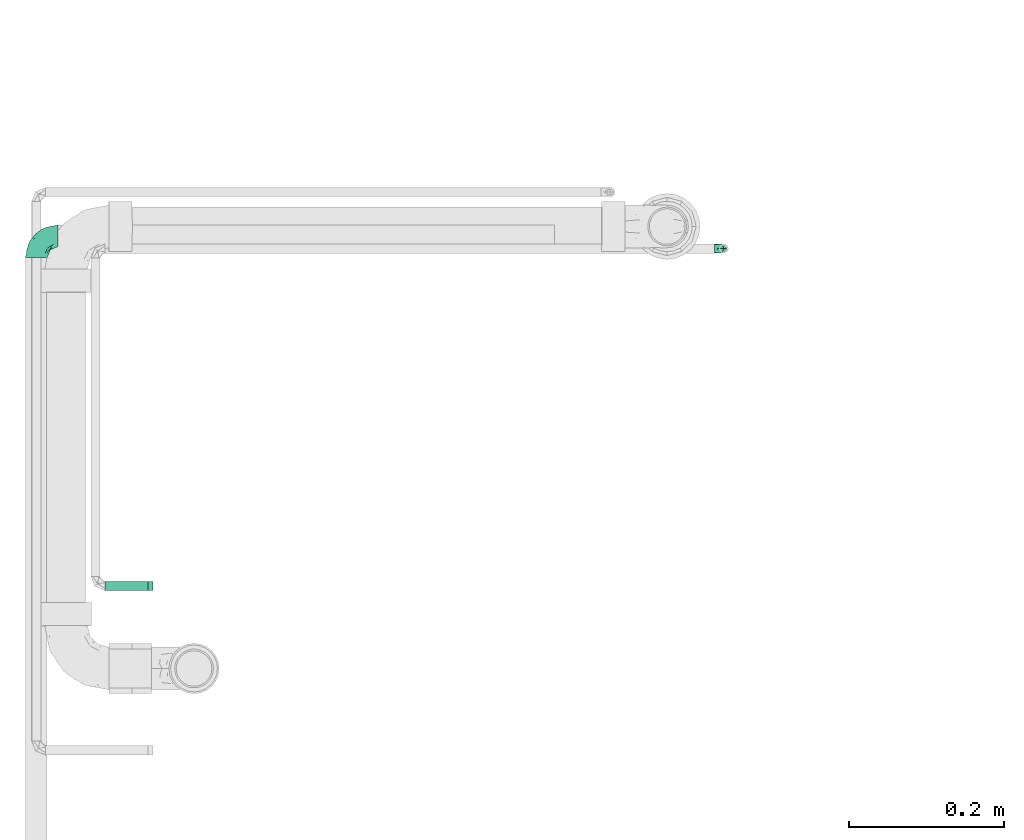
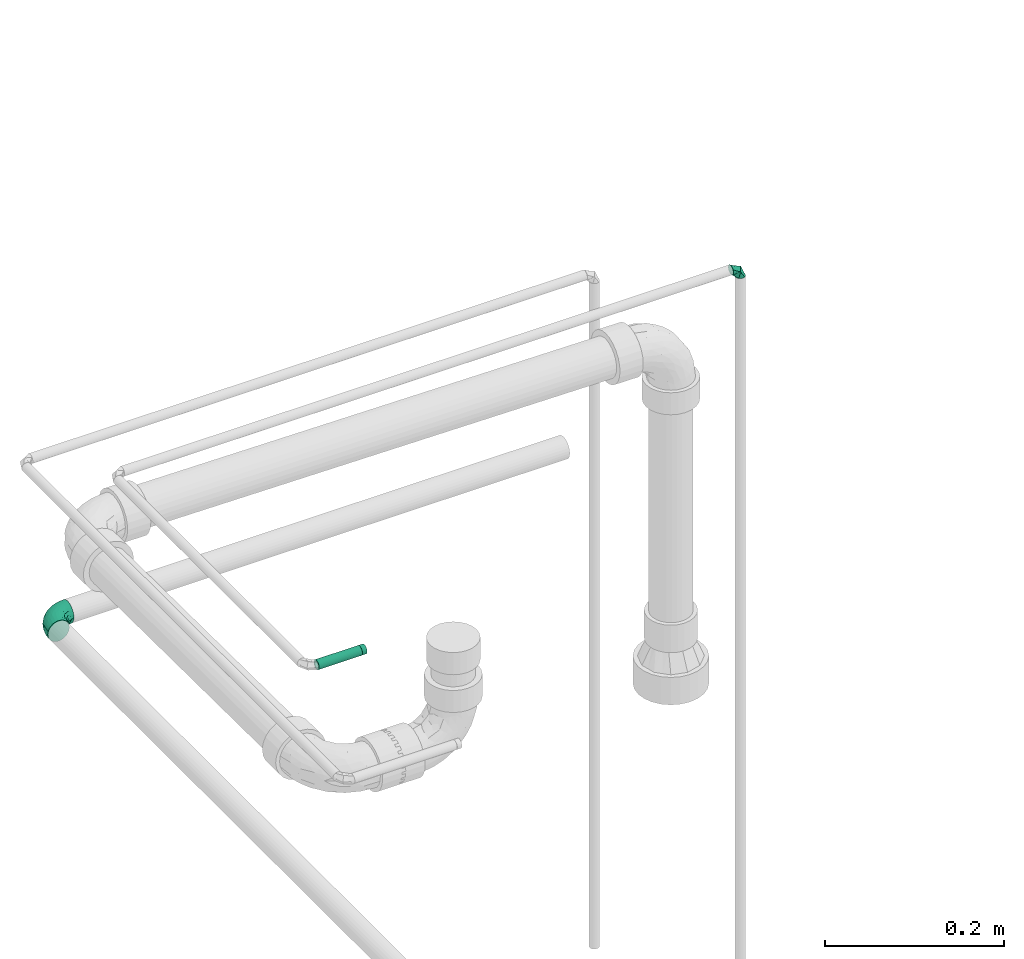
# One storey, part 67 of 108: 3 flow fittings, 1 flow segment.
"""IFC2X3 building model written with IfcOpenShell, lengths in millimetres."""

from ifc_helpers import new_model, entity, si_unit, converted_unit, derived_unit, direction, frame, origin_with_axes, origin_2d_with_axis, place, context, subcontext, project, spatial, hollow_circle, extrude, open_shell, surface_model, source, transform, mapped, type_object, element, save


model = new_model("IFC2X3")

# Units and contexts
model_context = context("Model", 3, precision=0.01, world=frame((0.0, 4.29681676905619e-09, 0.0)), true_north=direction((4.01073788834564e-13, 1.0)))
plan_context = context("Plan", 3, precision=0.01, world=frame((0.0, 4.29681676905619e-09, 0.0)), true_north=direction((4.01073788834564e-13, 1.0)))
body_context = subcontext(model_context, "Body", "Model", "MODEL_VIEW")
ifc_project = project(units=[converted_unit("PLANEANGLEUNIT", "DEGREE", entity("IfcPositiveLengthMeasure", 0.0174532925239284), si_unit("PLANEANGLEUNIT", "RADIAN"), dimensions=[0, 0, 0, 0, 0, 0, 0]), si_unit("AREAUNIT", "SQUARE_METRE"), si_unit("LENGTHUNIT", "METRE", prefix="MILLI"), si_unit("MASSUNIT", "GRAM", prefix="KILO"), si_unit("POWERUNIT", "WATT"), si_unit("PRESSUREUNIT", "PASCAL", prefix="KILO"), si_unit("FORCEUNIT", "NEWTON", prefix="KILO"), si_unit("ELECTRICVOLTAGEUNIT", "VOLT"), si_unit("ELECTRICCURRENTUNIT", "AMPERE"), si_unit("THERMODYNAMICTEMPERATUREUNIT", "DEGREE_CELSIUS"), si_unit("TIMEUNIT", "SECOND"), si_unit("VOLUMEUNIT", "CUBIC_METRE"), derived_unit("LINEARVELOCITYUNIT", [(si_unit("LENGTHUNIT", "METRE"), 1), (si_unit("TIMEUNIT", "SECOND"), -1)]), derived_unit("VOLUMETRICFLOWRATEUNIT", [(si_unit("VOLUMEUNIT", "CUBIC_METRE"), 1), (si_unit("TIMEUNIT", "SECOND"), -1)]), derived_unit("THERMALTRANSMITTANCEUNIT", [(si_unit("POWERUNIT", "WATT"), 1), (si_unit("THERMODYNAMICTEMPERATUREUNIT", "KELVIN"), -1), (si_unit("AREAUNIT", "SQUARE_METRE"), -1)]), derived_unit("SOUNDPRESSUREUNIT", [(si_unit("PRESSUREUNIT", "PASCAL"), 1)])], contexts=[model_context, plan_context])

# Site, building, storey
site_placement = place(None, frame((0.0, -4.29681676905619e-09, 0.0), z_axis=(0.0, 0.0, 1.0), x_axis=(1.0, 0.0, 0.0)))
site = spatial("IfcSite", under=ifc_project, at=site_placement, CompositionType="ELEMENT")
building_placement = place(site_placement, frame((0.0, 4.29681676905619e-09, 0.0), z_axis=(0.0, 0.0, 1.0), x_axis=(1.0, 0.0, 0.0)))
building = spatial("IfcBuilding", under=site, at=building_placement, Name="mc-building", CompositionType="ELEMENT")
storey_placement = place(building_placement, frame((0.0, 0.0, 210200.0), z_axis=(0.0, 0.0, 1.0), x_axis=(1.0, 0.0, 0.0)))
storey = spatial("IfcBuildingStorey", under=building, at=storey_placement, Name="Nivå F - 0,7 m", CompositionType="ELEMENT", Elevation=210200.0)

# Flow fittings
pipe_fitting_type_1 = type_object("IfcPipeFittingType", Name="magi_pipe_elbow_short_001", PredefinedType="BEND")
shared_shape_1 = source(origin_with_axes(), body_context, "Body", "SurfaceModel", [
    surface_model("IfcShellBasedSurfaceModel", [(-12.0, 0.0, -6.0), (-12.0, -5.19615, -3.0), (-12.0, 1.55291, -5.79555), (-12.0, 5.79555, -1.55291), (-12.0, -5.79555, -1.55291), (-12.0, -6.0, 0.0), (-12.0, -1.55291, 5.79555), (-12.0, 0.0, 6.0), (-12.0, -3.0, 5.19615), (-12.0, 3.0, -5.19615), (-12.0, 5.19615, -3.0), (-12.0, 4.24264, -4.24264), (-12.0, -3.0, -5.19615), (-12.0, -4.24264, -4.24264), (-12.0, -1.55291, -5.79555), (-12.0, 6.0, 0.0), (-12.0, -4.24264, 4.24264), (-12.0, 5.79555, 1.55291), (-12.0, 5.19615, 3.0), (-12.0, 4.24264, 4.24264), (-12.0, 1.55291, 5.79555), (-12.0, 3.0, 5.19615), (-12.0, -5.79555, 1.55291), (-12.0, -5.19615, 3.0), (-1.55291, 12.0, -5.79555), (5.19615, 12.0, -3.0), (0.0, 12.0, -6.0), (-5.79555, 12.0, -1.55291), (-3.0, 12.0, -5.19615), (-4.24264, 12.0, -4.24264), (-5.19615, 12.0, -3.0), (-1.55291, 12.0, 5.79555), (1.55291, 12.0, -5.79555), (4.24264, 12.0, -4.24264), (3.0, 12.0, -5.19615), (6.0, 12.0, 0.0), (5.79555, 12.0, -1.55291), (4.24264, 12.0, 4.24264), (-5.19615, 12.0, 3.0), (-5.79555, 12.0, 1.55291), (-4.24264, 12.0, 4.24264), (-3.0, 12.0, 5.19615), (5.19615, 12.0, 3.0), (5.79555, 12.0, 1.55291), (3.0, 12.0, 5.19615), (0.0, 12.0, 6.0), (1.55291, 12.0, 5.79555), (-6.0, 12.0, 0.0), (-2.67965, 2.67964, 5.88263), (-6.5981, -3.76246, 0.0), (0.72792, -0.72792, 0.0), (3.76246, 6.5981, 0.0), (-7.75736, 7.75736, 0.0), (-2.67964, 2.67964, -5.88263)], [open_shell([[[0, 1, 2]], [[3, 2, 1]], [[4, 5, 1]], [[6, 7, 8]], [[9, 2, 3]], [[3, 10, 11]], [[9, 3, 11]], [[12, 13, 14]], [[1, 14, 13]], [[0, 14, 1]], [[1, 5, 3]], [[5, 15, 3]], [[16, 17, 5]], [[18, 17, 19]], [[20, 21, 19]], [[17, 20, 19]], [[20, 17, 8]], [[5, 22, 23]], [[5, 23, 16]], [[17, 16, 8]], [[20, 8, 7]], [[17, 15, 5]], [[24, 25, 26]], [[27, 24, 28]], [[29, 30, 27]], [[29, 27, 28]], [[31, 25, 24]], [[32, 33, 34]], [[33, 32, 25]], [[25, 35, 36]], [[25, 32, 26]], [[25, 37, 35]], [[38, 24, 27]], [[27, 39, 38]], [[24, 38, 31]], [[40, 41, 31]], [[40, 31, 38]], [[37, 25, 31]], [[35, 42, 43]], [[37, 42, 35]], [[44, 45, 46]], [[44, 37, 31]], [[45, 44, 31]], [[27, 47, 39]], [[6, 48, 7]], [[23, 22, 49]], [[16, 23, 49]], [[22, 5, 49]], [[50, 51, 48]], [[8, 49, 48]], [[20, 7, 48]], [[8, 48, 6]], [[42, 51, 43]], [[16, 49, 8]], [[18, 19, 38]], [[48, 19, 21]], [[17, 18, 52]], [[52, 15, 17]], [[52, 18, 38]], [[21, 20, 48]], [[49, 50, 48]], [[44, 46, 48]], [[51, 44, 48]], [[46, 45, 48]], [[35, 43, 51]], [[44, 51, 37]], [[37, 51, 42]], [[38, 39, 52]], [[47, 52, 39]], [[41, 40, 48]], [[40, 19, 48]], [[38, 19, 40]], [[31, 41, 48]], [[45, 31, 48]], [[9, 53, 2]], [[2, 53, 0]], [[52, 10, 3]], [[50, 49, 53]], [[11, 29, 53]], [[1, 49, 4]], [[11, 10, 29]], [[9, 11, 53]], [[49, 5, 4]], [[1, 13, 49]], [[14, 53, 12]], [[49, 13, 12]], [[12, 53, 49]], [[0, 53, 14]], [[3, 15, 52]], [[52, 47, 27]], [[52, 27, 30]], [[29, 10, 30]], [[32, 53, 26]], [[53, 28, 24]], [[36, 35, 51]], [[53, 29, 28]], [[26, 53, 24]], [[53, 34, 51]], [[51, 34, 33]], [[25, 36, 51]], [[51, 50, 53]], [[51, 33, 25]], [[34, 53, 32]], [[30, 10, 52]]])]),
])
flow_fitting_1_placement = place(storey_placement, frame((322732.1022, 462097.03657, 570.0), z_axis=(0.0, 1.0, 0.0), x_axis=(1.0, 0.0, 0.0)))
element("IfcFlowFitting", 1, at=flow_fitting_1_placement, inside=storey, type_object=pipe_fitting_type_1, Name="magi_pipe_elbow_short_001", context=body_context, shape_type="MappedRepresentation", body=[
    mapped(shared_shape_1, transform((0.0, 0.0, 0.0), scale=1.0)),
])
shared_shape_2 = source(origin_with_axes(), body_context, "Body", "SurfaceModel", [
    surface_model("IfcShellBasedSurfaceModel", [(-28.0, 3.62347, -13.52296), (-28.0, 0.0, -14.0), (-28.0, 13.52296, -3.62347), (-28.0, 7.0, -12.12436), (-28.0, 9.89949, -9.89949), (-28.0, 12.12436, -7.0), (-28.0, -9.89949, 9.89949), (-28.0, -13.52296, -3.62347), (-28.0, -7.0, -12.12436), (-28.0, -9.89949, -9.89949), (-28.0, -3.62347, -13.52296), (-28.0, -12.12436, -7.0), (-28.0, -14.0, 0.0), (-28.0, -13.52296, 3.62347), (-28.0, 13.52296, 3.62347), (-28.0, 14.0, 0.0), (-28.0, 3.62347, 13.52296), (-28.0, 12.12436, 7.0), (-28.0, 9.89949, 9.89949), (-28.0, 7.0, 12.12436), (-28.0, 0.0, 14.0), (-28.0, -12.12436, 7.0), (-28.0, -3.62347, 13.52296), (-28.0, -7.0, 12.12436), (-13.52296, 28.0, -3.62347), (0.0, 28.0, -14.0), (-3.62347, 28.0, -13.52296), (-9.89949, 28.0, -9.89949), (-7.0, 28.0, -12.12436), (-12.12436, 28.0, -7.0), (13.52296, 28.0, -3.62347), (-9.89949, 28.0, 9.89949), (3.62347, 28.0, -13.52296), (9.89949, 28.0, -9.89949), (7.0, 28.0, -12.12436), (12.12436, 28.0, -7.0), (13.52296, 28.0, 3.62347), (14.0, 28.0, 0.0), (-13.52296, 28.0, 3.62347), (-12.12436, 28.0, 7.0), (-7.0, 28.0, 12.12436), (-3.62347, 28.0, 13.52296), (9.89949, 28.0, 9.89949), (0.0, 28.0, 14.0), (12.12436, 28.0, 7.0), (7.0, 28.0, 12.12436), (3.62347, 28.0, 13.52296), (-14.0, 28.0, 0.0), (-18.74729, -12.24672, 4.38175), (-20.4978, -10.87112, 7.8554), (-14.63098, -10.41778, 0.0), (-11.36869, -10.18884, 3.09687), (5.89274, 4.32805, 4.24468), (3.06694, 4.04075, 8.35629), (-0.17293, -0.734, 7.21134), (-12.21635, -8.85831, 7.04954), (-3.77138, -5.46958, 4.31404), (-21.31549, -12.20889, 0.0), (6.34939, 11.25924, 9.57712), (8.06481, 18.3168, 10.42711), (3.37486, 10.81192, 11.64293), (-18.31681, -8.06481, 10.42711), (-20.56266, -5.29223, 12.59496), (-21.38752, -1.85462, 13.76057), (-19.60454, 2.14601, 13.97614), (-10.81192, -3.37486, 11.64293), (-13.93831, -0.12564, 13.56955), (-21.5811, 5.49074, 13.225), (-21.95612, 11.65158, 9.17996), (-20.05772, 14.63261, 6.40071), (-24.5084, 13.14639, 5.80116), (-14.41344, 20.50581, 6.33709), (-4.86565, 13.76759, 13.97488), (-10.37, 10.37, 13.65983), (-8.33631, 6.11788, 13.92788), (-14.75744, 15.63504, 9.91683), (-24.22185, 8.47816, 11.40754), (-3.65439, 9.37683, 13.74657), (-6.95631, 2.56833, 13.07318), (-1.43023, 7.56381, 12.86583), (-23.31553, 14.32852, 3.52781), (-21.69779, 16.61046, 0.0), (-5.22595, 24.14907, 13.1135), (-1.91876, 20.94202, 13.96561), (5.29223, 20.56266, 12.59496), (-4.80832, -3.33944, 8.67628), (-2.5008, 2.5008, 11.44619), (1.85462, 21.38752, 13.76057), (10.87112, 20.4978, 7.8554), (8.85831, 12.21635, 7.04954), (12.24672, 18.74729, 4.38175), (-11.25924, -6.34939, 9.57712), (-15.37363, 21.10999, 3.25616), (-19.14983, 16.6358, 3.33834), (10.18884, 11.36869, 3.09687), (10.41778, 14.63098, 0.0), (12.20889, 21.31549, 0.0), (-18.10051, 18.10051, 0.0), (8.37307, 7.0, 0.0), (-11.50288, 18.59955, 10.71326), (-8.84699, 21.68272, 11.60426), (-11.55739, 22.32322, 9.13967), (-10.58943, 15.13428, 12.47628), (-6.05474, 18.97034, 13.33304), (-14.9522, 12.56273, 11.63436), (-7.0, -8.37307, 0.0), (-15.38425, 5.99686, 13.74946), (-13.73768, 3.4306, 13.99403), (-14.88363, 9.49937, 12.94918), (-8.15523, 14.5327, 13.41132), (0.12564, 13.93831, 13.56955), (-19.27864, 9.50344, 11.78944), (-1.06605, 0.88351, 9.56863), (-3.83005, -4.31684, 6.58349), (-3.15673, -4.5298, 0.0), (1.6378, -1.17307, 3.37596), (-16.61046, 21.69779, 0.0), (4.5298, 3.15673, 0.0), (0.68653, -0.68653, 0.0), (-22.16307, 1.77021, -13.95443), (-12.1112, 20.49304, -9.34219), (-20.84882, -12.5942, -4.60988), (-21.54235, 5.49691, -13.22664), (-19.10898, 16.60593, -3.53067), (-11.43732, -3.53319, -11.74569), (-12.15681, -0.17464, -13.31564), (-5.62502, -0.23427, -11.47155), (-20.32556, 9.17949, -11.70878), (-22.13531, 11.60457, -9.16028), (8.41708, 20.6911, -10.6019), (-16.88435, 12.82951, -10.55878), (-11.13704, -10.24959, -2.34743), (-4.84185, -6.54661, -3.36137), (-12.96604, 16.27159, -10.78023), (-9.97005, 17.11892, -12.15817), (-12.93887, 12.93887, -12.29249), (-1.2334, -2.64201, -5.92074), (1.22973, 2.47088, -8.8979), (5.16596, 4.11707, -5.50974), (-13.82252, 8.10203, -13.53774), (-19.77353, -10.77046, -7.78839), (-20.6911, -8.41708, -10.6019), (-5.71492, 20.3686, -13.27579), (12.5942, 20.84882, -4.60988), (-23.64458, -5.51923, -12.7416), (-12.09227, -8.27186, -7.82819), (-10.45313, -5.71095, -9.79365), (0.58937, 6.57638, -11.67536), (0.17464, 12.15681, -13.31564), (2.89353, 11.95196, -12.23037), (-23.72828, 14.45075, -2.39672), (-13.72718, 22.21732, -6.10198), (-14.65489, 22.72001, -3.11815), (10.77046, 19.77353, -7.78839), (-4.94234, 4.94234, -13.21976), (-17.01297, 16.64546, -6.86733), (-1.77021, 22.16307, -13.95443), (-8.78719, 21.97882, -11.58143), (1.76523, 20.62648, -13.74402), (5.51923, 23.64458, -12.7416), (-20.62648, -1.76523, -13.74402), (-17.72962, -4.83155, -12.45127), (-3.30956, 15.42318, -13.99698), (-7.57019, 8.16927, -13.99205), (-8.28388, 13.27199, -13.5833), (-6.87455, -6.54348, -6.32219), (9.88737, 10.40056, -2.49707), (6.89392, 5.1145, -2.73992), (0.30381, -2.5875, -3.00478), (-22.38273, 13.76108, -5.90633), (9.77824, 12.19087, -5.31295), (8.70689, 13.51955, -8.04189), (5.71095, 10.45313, -9.79365), (4.83155, 17.72962, -12.45127), (-4.06757, -2.72494, -8.72853), (6.23857, 7.82545, -7.6266), (-15.42318, 3.30956, -13.99698), (-16.05025, 23.05025, 0.0), (-12.19087, -9.77824, -5.31295), (3.79914, 1.24839, -3.50098), (-15.61294, 15.85577, -9.08381)], [open_shell([[[0, 1, 2]], [[3, 0, 4]], [[2, 5, 4]], [[0, 2, 4]], [[6, 1, 7]], [[8, 9, 10]], [[9, 1, 10]], [[11, 7, 9]], [[9, 7, 1]], [[12, 13, 7]], [[2, 1, 6]], [[14, 15, 16]], [[17, 14, 18]], [[16, 19, 18]], [[14, 16, 18]], [[20, 16, 15]], [[21, 6, 13]], [[6, 7, 13]], [[22, 20, 23]], [[6, 23, 20]], [[2, 6, 20]], [[15, 2, 20]], [[24, 25, 26]], [[27, 26, 28]], [[27, 29, 24]], [[27, 24, 26]], [[30, 25, 31]], [[32, 33, 34]], [[32, 25, 33]], [[33, 30, 35]], [[25, 30, 33]], [[30, 36, 37]], [[31, 25, 24]], [[24, 38, 31]], [[31, 38, 39]], [[31, 40, 41]], [[31, 42, 30]], [[41, 43, 31]], [[36, 42, 44]], [[30, 42, 36]], [[45, 43, 46]], [[43, 45, 42]], [[31, 43, 42]], [[24, 47, 38]], [[48, 49, 21]], [[48, 50, 51]], [[52, 53, 54]], [[55, 51, 56]], [[49, 6, 21]], [[57, 48, 13]], [[58, 59, 60]], [[61, 23, 6]], [[61, 62, 23]], [[20, 63, 64]], [[62, 65, 66]], [[59, 42, 45]], [[20, 22, 63]], [[67, 19, 16]], [[68, 69, 70]], [[39, 38, 71]], [[72, 73, 74]], [[69, 68, 75]], [[20, 64, 16]], [[19, 76, 18]], [[17, 18, 68]], [[77, 78, 79]], [[80, 81, 15]], [[41, 82, 83]], [[45, 84, 59]], [[85, 86, 65]], [[46, 43, 87]], [[88, 89, 90]], [[91, 65, 61]], [[43, 41, 83]], [[71, 92, 93]], [[90, 94, 95]], [[84, 45, 46]], [[88, 90, 44]], [[59, 84, 60]], [[36, 44, 90]], [[75, 71, 69]], [[23, 62, 22]], [[90, 96, 36]], [[97, 81, 93]], [[94, 98, 95]], [[92, 97, 93]], [[50, 48, 57]], [[70, 14, 17]], [[99, 100, 101]], [[31, 101, 100]], [[40, 31, 100]], [[102, 103, 100]], [[103, 72, 83]], [[82, 100, 103]], [[82, 41, 40]], [[99, 104, 102]], [[15, 14, 80]], [[67, 16, 64]], [[51, 50, 105]], [[48, 21, 13]], [[49, 55, 61]], [[44, 42, 88]], [[89, 52, 94]], [[106, 107, 74]], [[108, 67, 106]], [[31, 39, 101]], [[109, 102, 73]], [[103, 109, 72]], [[87, 83, 110]], [[76, 68, 18]], [[68, 111, 104]], [[65, 62, 61]], [[63, 62, 66]], [[91, 61, 55]], [[65, 86, 78]], [[87, 84, 46]], [[110, 79, 60]], [[110, 60, 84]], [[86, 112, 60]], [[55, 49, 48]], [[61, 6, 49]], [[42, 59, 88]], [[89, 88, 59]], [[106, 67, 64]], [[76, 67, 111]], [[53, 52, 89]], [[112, 86, 85]], [[56, 113, 55]], [[112, 54, 53]], [[58, 89, 59]], [[56, 51, 105]], [[114, 115, 56]], [[14, 70, 80]], [[69, 71, 93]], [[47, 116, 92]], [[92, 116, 97]], [[39, 71, 101]], [[75, 101, 71]], [[99, 102, 100]], [[108, 104, 111]], [[106, 74, 73]], [[110, 83, 72]], [[78, 74, 66]], [[72, 74, 77]], [[83, 87, 43]], [[84, 87, 110]], [[62, 63, 22]], [[64, 63, 66]], [[13, 12, 57]], [[96, 90, 95]], [[96, 37, 36]], [[115, 117, 52]], [[56, 105, 114]], [[55, 48, 51]], [[89, 94, 90]], [[52, 98, 94]], [[106, 64, 107]], [[108, 106, 73]], [[102, 108, 73]], [[67, 108, 111]], [[102, 104, 108]], [[68, 104, 75]], [[64, 66, 107]], [[66, 74, 107]], [[65, 78, 66]], [[79, 78, 86]], [[60, 79, 86]], [[77, 79, 110]], [[72, 77, 110]], [[78, 77, 74]], [[67, 76, 19]], [[68, 76, 111]], [[100, 82, 40]], [[83, 82, 103]], [[68, 70, 17]], [[80, 69, 93]], [[69, 80, 70]], [[80, 93, 81]], [[55, 85, 91]], [[85, 65, 91]], [[60, 53, 58]], [[53, 89, 58]], [[54, 112, 85]], [[60, 112, 53]], [[85, 113, 54]], [[113, 115, 54]], [[55, 113, 85]], [[115, 113, 56]], [[71, 38, 92]], [[115, 114, 118]], [[47, 92, 38]], [[101, 75, 99]], [[99, 75, 104]], [[72, 109, 73]], [[103, 102, 109]], [[54, 115, 52]], [[117, 115, 118]], [[117, 98, 52]], [[0, 119, 1]], [[29, 27, 120]], [[121, 57, 7]], [[3, 122, 0]], [[97, 123, 81]], [[124, 125, 126]], [[127, 4, 128]], [[33, 129, 34]], [[127, 128, 130]], [[131, 132, 105]], [[133, 134, 135]], [[127, 3, 4]], [[136, 137, 138]], [[139, 122, 127]], [[4, 5, 128]], [[11, 140, 121]], [[141, 140, 9]], [[26, 142, 28]], [[95, 143, 96]], [[144, 8, 10]], [[145, 141, 146]], [[30, 37, 96]], [[147, 148, 149]], [[140, 11, 9]], [[15, 81, 150]], [[130, 133, 135]], [[151, 152, 24]], [[153, 35, 143]], [[147, 154, 148]], [[24, 29, 151]], [[120, 155, 151]], [[33, 153, 129]], [[25, 156, 26]], [[26, 156, 142]], [[143, 35, 30]], [[27, 28, 157]], [[123, 152, 155]], [[158, 32, 159]], [[144, 160, 161]], [[122, 3, 127]], [[148, 162, 158]], [[157, 28, 142]], [[162, 163, 164]], [[159, 32, 34]], [[165, 136, 132]], [[35, 153, 33]], [[166, 98, 167]], [[160, 10, 1]], [[161, 160, 125]], [[95, 166, 143]], [[50, 131, 105]], [[121, 7, 11]], [[168, 114, 132]], [[150, 169, 2]], [[167, 98, 117]], [[32, 158, 25]], [[164, 142, 162]], [[133, 157, 134]], [[9, 8, 141]], [[165, 145, 146]], [[170, 171, 153]], [[129, 172, 173]], [[126, 137, 174]], [[175, 137, 172]], [[148, 158, 173]], [[156, 158, 162]], [[149, 172, 147]], [[148, 154, 163]], [[119, 160, 1]], [[176, 163, 125]], [[176, 125, 160]], [[125, 154, 126]], [[169, 128, 5]], [[127, 130, 135]], [[139, 127, 135]], [[119, 122, 176]], [[120, 151, 29]], [[152, 97, 177]], [[142, 164, 134]], [[120, 27, 157]], [[152, 47, 24]], [[81, 123, 150]], [[123, 155, 169]], [[152, 123, 97]], [[140, 178, 121]], [[121, 178, 131]], [[144, 141, 8]], [[146, 141, 161]], [[30, 96, 143]], [[170, 153, 143]], [[129, 153, 171]], [[159, 129, 173]], [[137, 147, 172]], [[126, 154, 147]], [[172, 171, 175]], [[174, 137, 136]], [[137, 126, 147]], [[126, 146, 124]], [[117, 118, 179]], [[179, 138, 167]], [[128, 169, 155]], [[5, 2, 169]], [[57, 121, 50]], [[57, 12, 7]], [[122, 119, 0]], [[160, 119, 176]], [[158, 156, 25]], [[142, 156, 162]], [[162, 148, 163]], [[139, 135, 164]], [[125, 163, 154]], [[139, 163, 176]], [[163, 139, 164]], [[122, 139, 176]], [[155, 180, 128]], [[180, 120, 133]], [[180, 133, 130]], [[157, 133, 120]], [[142, 134, 157]], [[164, 135, 134]], [[128, 180, 130]], [[120, 180, 155]], [[152, 151, 155]], [[47, 152, 177]], [[169, 150, 123]], [[15, 150, 2]], [[121, 131, 50]], [[178, 165, 132]], [[178, 132, 131]], [[168, 132, 136]], [[145, 165, 178]], [[174, 165, 146]], [[178, 140, 145]], [[141, 145, 140]], [[179, 136, 138]], [[170, 166, 167]], [[168, 179, 118]], [[170, 167, 138]], [[143, 166, 170]], [[95, 98, 166]], [[117, 179, 167]], [[136, 179, 168]], [[129, 159, 34]], [[158, 159, 173]], [[160, 144, 10]], [[141, 144, 161]], [[175, 170, 138]], [[129, 171, 172]], [[170, 175, 171]], [[137, 175, 138]], [[148, 173, 149]], [[172, 149, 173]], [[165, 174, 136]], [[126, 174, 146]], [[146, 161, 124]], [[125, 124, 161]], [[114, 168, 118]], [[114, 105, 132]]])]),
])
flow_fitting_2_placement = place(storey_placement, frame((321845.71299, 462113.63355, 390.282059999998), z_axis=(0.0, 0.0, 1.0), x_axis=(-1.0, 0.0, 0.0)))
element("IfcFlowFitting", 2, at=flow_fitting_2_placement, inside=storey, type_object=pipe_fitting_type_1, Name="magi_pipe_elbow_short_001", context=body_context, shape_type="MappedRepresentation", body=[
    mapped(shared_shape_2, transform((0.0, 0.0, 0.0), scale=1.0)),
])
pipe_fitting_type_2 = type_object("IfcPipeFittingType", Name="magi_pipe_fe_plug_001", PredefinedType="OBSTRUCTION")
shared_shape_3 = source(origin_with_axes(), body_context, "Body", "SurfaceModel", [
    surface_model("IfcShellBasedSurfaceModel", [(0.0, 0.0, -6.0), (0.0, -5.19615, -3.0), (0.0, 1.55291, -5.79555), (0.0, 3.0, -5.19615), (0.0, 4.24264, -4.24264), (0.0, 5.79555, -1.55291), (0.0, 5.19615, -3.0), (0.0, -4.24264, -4.24264), (0.0, -3.0, -5.19615), (0.0, -1.55291, -5.79555), (0.0, -5.79555, -1.55291), (0.0, -6.0, 0.0), (0.0, -5.19615, 3.0), (0.0, 5.19615, 3.0), (0.0, 5.79555, 1.55291), (0.0, 6.0, 0.0), (0.0, 3.0, 5.19615), (0.0, 4.24264, 4.24264), (0.0, 0.0, 6.0), (0.0, 1.55291, 5.79555), (0.0, -4.24264, 4.24264), (0.0, -3.0, 5.19615), (0.0, -5.79555, 1.55291), (0.0, -1.55291, 5.79555), (6.0, 1.55291, -5.79555), (6.0, -5.19615, -3.0), (6.0, 0.0, -6.0), (6.0, 4.24264, -4.24264), (6.0, 3.0, -5.19615), (6.0, 5.19615, -3.0), (6.0, 5.79555, -1.55291), (6.0, 5.19615, 3.0), (6.0, -6.0, 0.0), (6.0, -3.0, -5.19615), (6.0, -4.24264, -4.24264), (6.0, -1.55291, -5.79555), (6.0, -5.79555, -1.55291), (6.0, 6.0, 0.0), (6.0, 5.79555, 1.55291), (6.0, -5.19615, 3.0), (6.0, 3.0, 5.19615), (6.0, 4.24264, 4.24264), (6.0, 0.0, 6.0), (6.0, 1.55291, 5.79555), (6.0, -3.0, 5.19615), (6.0, -4.24264, 4.24264), (6.0, -5.79555, 1.55291), (6.0, -1.55291, 5.79555)], [open_shell([[[0, 1, 2]], [[3, 2, 4]], [[2, 5, 6]], [[4, 2, 6]], [[5, 2, 1]], [[7, 1, 8]], [[0, 9, 8]], [[10, 11, 1]], [[1, 0, 8]], [[11, 12, 1]], [[12, 5, 1]], [[13, 14, 15]], [[5, 12, 13]], [[12, 16, 13]], [[17, 13, 16]], [[16, 18, 19]], [[20, 21, 12]], [[12, 11, 22]], [[23, 18, 21]], [[16, 12, 21]], [[16, 21, 18]], [[15, 5, 13]], [[24, 25, 26]], [[27, 24, 28]], [[29, 30, 24]], [[29, 24, 27]], [[31, 32, 24]], [[33, 25, 34]], [[33, 35, 26]], [[25, 32, 36]], [[33, 26, 25]], [[24, 32, 25]], [[24, 30, 37]], [[37, 38, 31]], [[31, 39, 32]], [[39, 31, 40]], [[40, 31, 41]], [[42, 40, 43]], [[39, 44, 45]], [[46, 32, 39]], [[44, 42, 47]], [[44, 39, 40]], [[42, 44, 40]], [[31, 24, 37]], [[46, 11, 32]], [[39, 22, 46]], [[20, 45, 44]], [[39, 45, 12]], [[21, 44, 47]], [[39, 12, 22]], [[22, 11, 46]], [[23, 42, 18]], [[23, 21, 47]], [[20, 44, 21]], [[20, 12, 45]], [[42, 23, 47]], [[40, 19, 43]], [[41, 16, 40]], [[13, 31, 38]], [[41, 31, 17]], [[14, 38, 37]], [[40, 16, 19]], [[19, 18, 43]], [[14, 13, 38]], [[17, 31, 13]], [[17, 16, 41]], [[15, 14, 37]], [[43, 18, 42]], [[30, 15, 37]], [[29, 5, 30]], [[4, 27, 28]], [[29, 27, 6]], [[3, 28, 24]], [[29, 6, 5]], [[5, 15, 30]], [[2, 26, 0]], [[2, 3, 24]], [[4, 28, 3]], [[4, 6, 27]], [[26, 2, 24]], [[33, 9, 35]], [[34, 8, 33]], [[1, 25, 36]], [[34, 25, 7]], [[10, 36, 32]], [[33, 8, 9]], [[9, 0, 35]], [[10, 1, 36]], [[7, 25, 1]], [[7, 8, 34]], [[11, 10, 32]], [[35, 0, 26]]])]),
])
flow_fitting_3_placement = place(storey_placement, frame((321990.00005, 461662.03657, 570.0), z_axis=(0.0, 0.0, 1.0), x_axis=(1.0, 0.0, 0.0)))
element("IfcFlowFitting", 3, at=flow_fitting_3_placement, inside=storey, type_object=pipe_fitting_type_2, Name="magi_pipe_fe_plug_001", context=body_context, shape_type="MappedRepresentation", body=[
    mapped(shared_shape_3, transform((0.0, 0.0, 0.0), scale=1.0)),
])

# Flow segment
pipe_segment_type = type_object("IfcPipeSegmentType", Name="Kobberrør", PredefinedType="RIGIDSEGMENT")
shared_shape_4 = source(origin_with_axes(), body_context, "Body", "SweptSolid", [
    extrude(hollow_circle(Radius=6.0, WallThickness=2.0, at=origin_2d_with_axis()), frame((0.0, 0.0, 0.0), z_axis=(1.0, 0.0, 0.0), x_axis=(0.0, 1.0, 0.0)), (0.0, 0.0, 1.0), 55.9),
])
flow_segment_placement = place(storey_placement, frame((321934.1022, 461662.03657, 570.0), z_axis=(0.0, 0.0, 1.0), x_axis=(1.0, 0.0, 0.0)))
element("IfcFlowSegment", 4, at=flow_segment_placement, inside=storey, type_object=pipe_segment_type, Name="Kobberrør", context=body_context, shape_type="MappedRepresentation", body=[
    mapped(shared_shape_4, transform((0.0, 0.0, 0.0), scale=1.0)),
])

save(model, "model.ifc")
